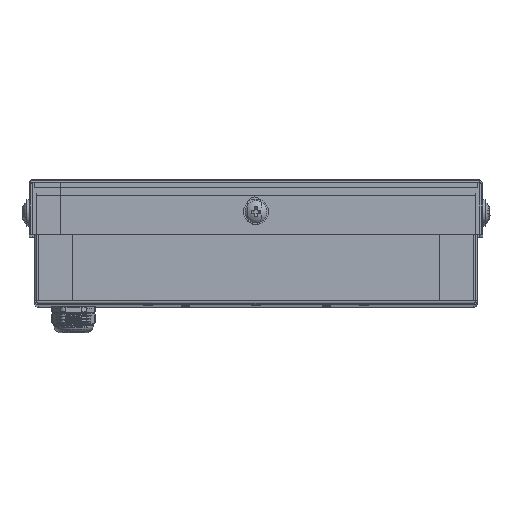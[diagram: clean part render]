
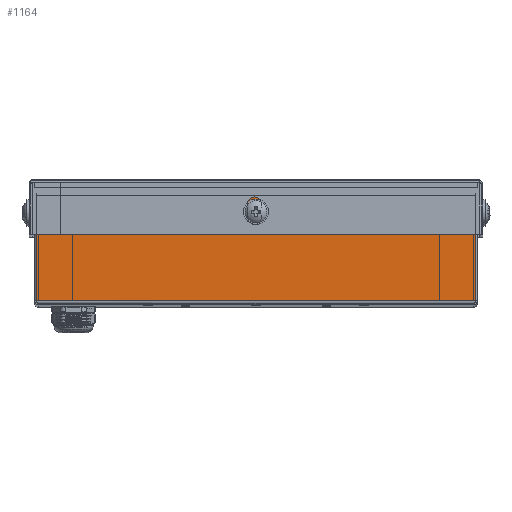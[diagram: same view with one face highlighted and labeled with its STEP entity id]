
A CAD part, top view. The second image highlights one B-rep face of the part: STEP entity #1164.
In plain terms, the highlighted planar face has unit normal (0, 0, 1).
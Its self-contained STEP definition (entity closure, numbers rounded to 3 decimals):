
#1164=ADVANCED_FACE('',(#2562,#2564),#2566,.F.);
#2562=FACE_BOUND('',#2563,.T.);
#2563=EDGE_LOOP('',(#9140,#9141,#9142,#9143));
#2564=FACE_BOUND('',#2565,.T.);
#2565=EDGE_LOOP('',(#9144));
#2566=PLANE('',#2567);
#2567=AXIS2_PLACEMENT_3D('',#2568,#2569,#2570);
#2568=CARTESIAN_POINT('',(0.,-294.248,295.5));
#2569=DIRECTION('',(0.,0.,-1.));
#2570=DIRECTION('',(1.,0.,0.));
#9140=ORIENTED_EDGE('',*,*,#10619,.T.);
#9141=ORIENTED_EDGE('',*,*,#10655,.T.);
#9142=ORIENTED_EDGE('',*,*,#10656,.T.);
#9143=ORIENTED_EDGE('',*,*,#10657,.T.);
#9144=ORIENTED_EDGE('',*,*,#10658,.T.);
#10619=EDGE_CURVE('',#11578,#11579,#11580,.T.);
#10655=EDGE_CURVE('',#11579,#11634,#11635,.T.);
#10656=EDGE_CURVE('',#11634,#11636,#11637,.T.);
#10657=EDGE_CURVE('',#11636,#11578,#11638,.T.);
#10658=EDGE_CURVE('',#11639,#11639,#11640,.T.);
#11578=VERTEX_POINT('',#13442);
#11579=VERTEX_POINT('',#13443);
#11580=LINE('',#13444,#13445);
#11634=VERTEX_POINT('',#13644);
#11635=LINE('',#13645,#13646);
#11636=VERTEX_POINT('',#13648);
#11637=LINE('',#13649,#13650);
#11638=LINE('',#13652,#13653);
#11639=VERTEX_POINT('',#13655);
#11640=CIRCLE('',#13656,3.05);
#13442=CARTESIAN_POINT('',(-87.329,1.6,295.5));
#13443=CARTESIAN_POINT('',(87.329,1.6,295.5));
#13444=CARTESIAN_POINT('',(-87.329,1.6,295.5));
#13445=VECTOR('',#13446,1.);
#13446=DIRECTION('',(1.,0.,0.));
#13644=CARTESIAN_POINT('',(87.329,43.4,295.5));
#13645=CARTESIAN_POINT('',(87.329,1.6,295.5));
#13646=VECTOR('',#13647,1.);
#13647=DIRECTION('',(0.,1.,0.));
#13648=CARTESIAN_POINT('',(-87.329,43.4,295.5));
#13649=CARTESIAN_POINT('',(87.329,43.4,295.5));
#13650=VECTOR('',#13651,1.);
#13651=DIRECTION('',(-1.,0.,0.));
#13652=CARTESIAN_POINT('',(-87.329,43.4,295.5));
#13653=VECTOR('',#13654,1.);
#13654=DIRECTION('',(0.,-1.,0.));
#13655=CARTESIAN_POINT('',(-3.05,37.,295.5));
#13656=AXIS2_PLACEMENT_3D('',#13657,#13658,#13659);
#13657=CARTESIAN_POINT('',(0.,37.,295.5));
#13658=DIRECTION('',(0.,0.,-1.));
#13659=DIRECTION('',(-1.,0.,0.));
